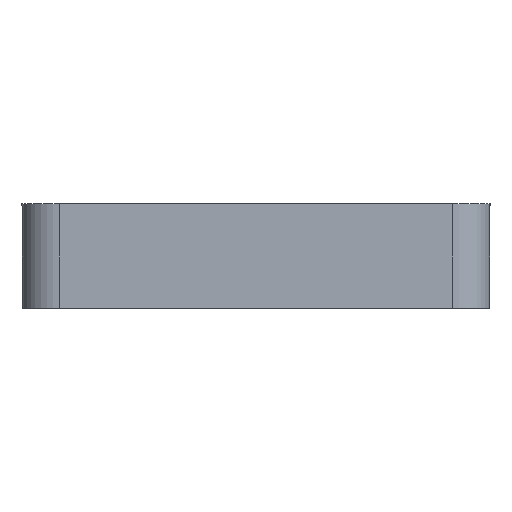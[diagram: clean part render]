
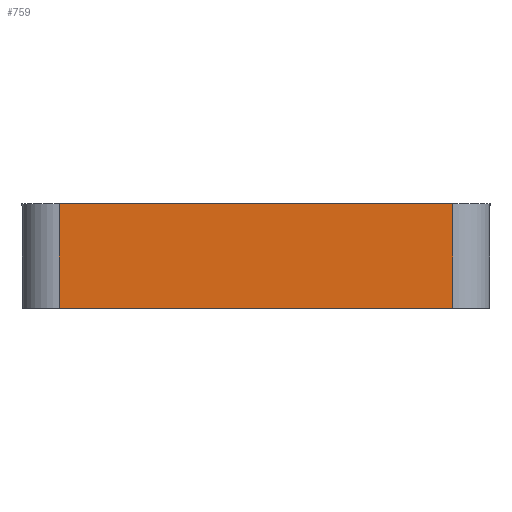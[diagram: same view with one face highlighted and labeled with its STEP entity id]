
A CAD part, left-side view. The second image highlights one B-rep face of the part: STEP entity #759.
In plain terms, the highlighted planar face has unit normal (-1, 0, 0).
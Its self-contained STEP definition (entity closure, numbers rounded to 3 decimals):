
#16 = CARTESIAN_POINT ( 'NONE',  ( 151.6, 133.79, -50.4 ) ) ;
#20 = DIRECTION ( 'NONE',  ( -1., 0., 0. ) ) ;
#48 = DIRECTION ( 'NONE',  ( 0., -1., 0. ) ) ;
#94 = VERTEX_POINT ( 'NONE', #16 ) ;
#103 = CARTESIAN_POINT ( 'NONE',  ( 151.6, 133.79, -44.8 ) ) ;
#133 = CARTESIAN_POINT ( 'NONE',  ( 151.6, 154.79, -49.3 ) ) ;
#208 = EDGE_CURVE ( 'NONE', #831, #478, #915, .T. ) ;
#238 = ORIENTED_EDGE ( 'NONE', *, *, #208, .T. ) ;
#252 = VERTEX_POINT ( 'NONE', #569 ) ;
#286 = EDGE_LOOP ( 'NONE', ( #482, #880, #1008, #238 ) ) ;
#290 = EDGE_CURVE ( 'NONE', #94, #831, #354, .T. ) ;
#313 = LINE ( 'NONE', #908, #730 ) ;
#348 = CARTESIAN_POINT ( 'NONE',  ( 151.6, 133.79, -49.3 ) ) ;
#352 = AXIS2_PLACEMENT_3D ( 'NONE', #628, #20, #489 ) ;
#354 = LINE ( 'NONE', #348, #863 ) ;
#364 = EDGE_CURVE ( 'NONE', #252, #94, #313, .T. ) ;
#456 = FACE_OUTER_BOUND ( 'NONE', #286, .T. ) ;
#478 = VERTEX_POINT ( 'NONE', #835 ) ;
#482 = ORIENTED_EDGE ( 'NONE', *, *, #921, .F. ) ;
#489 = DIRECTION ( 'NONE',  ( 0., 0., 1. ) ) ;
#545 = DIRECTION ( 'NONE',  ( 0., 1., 0. ) ) ;
#569 = CARTESIAN_POINT ( 'NONE',  ( 151.6, 154.79, -50.4 ) ) ;
#602 = DIRECTION ( 'NONE',  ( 0., 0., 1. ) ) ;
#628 = CARTESIAN_POINT ( 'NONE',  ( 151.6, 134.29, -49.3 ) ) ;
#694 = VECTOR ( 'NONE', #545, 1000. ) ;
#722 = PLANE ( 'NONE',  #352 ) ;
#730 = VECTOR ( 'NONE', #48, 1000. ) ;
#759 = ADVANCED_FACE ( 'NONE', ( #456 ), #722, .T. ) ;
#790 = CARTESIAN_POINT ( 'NONE',  ( 151.6, 134.29, -44.8 ) ) ;
#831 = VERTEX_POINT ( 'NONE', #103 ) ;
#835 = CARTESIAN_POINT ( 'NONE',  ( 151.6, 154.79, -44.8 ) ) ;
#863 = VECTOR ( 'NONE', #967, 1000. ) ;
#880 = ORIENTED_EDGE ( 'NONE', *, *, #364, .T. ) ;
#908 = CARTESIAN_POINT ( 'NONE',  ( 151.6, 134.29, -50.4 ) ) ;
#910 = LINE ( 'NONE', #133, #995 ) ;
#915 = LINE ( 'NONE', #790, #694 ) ;
#921 = EDGE_CURVE ( 'NONE', #252, #478, #910, .T. ) ;
#967 = DIRECTION ( 'NONE',  ( 0., 0., 1. ) ) ;
#995 = VECTOR ( 'NONE', #602, 1000. ) ;
#1008 = ORIENTED_EDGE ( 'NONE', *, *, #290, .T. ) ;
